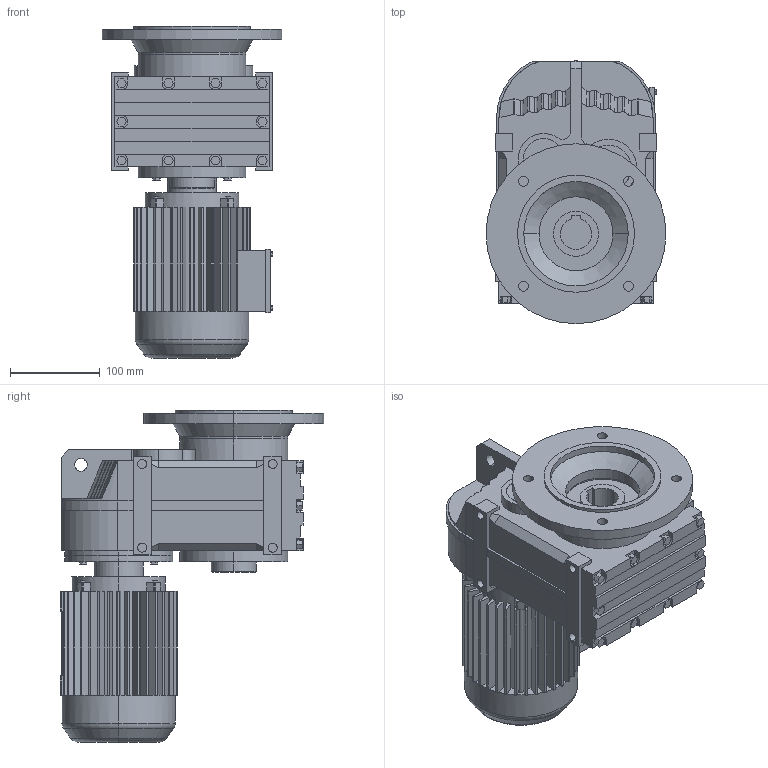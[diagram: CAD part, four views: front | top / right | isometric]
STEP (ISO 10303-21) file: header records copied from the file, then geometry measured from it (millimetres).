
FILE_DESCRIPTION(('Open CASCADE Model'),'2;1');
FILE_NAME('Open CASCADE Shape Model','2018-09-12T10:20:09',('Author'),( 'Open CASCADE'),'Open CASCADE STEP processor 6.3','Open CASCADE 6.3' ,'Unknown');
FILE_SCHEMA(('AUTOMOTIVE_DESIGN_CC2 { 1 2 10303 214 -1 1 5 4 }'));
Length unit declared in the file: millimetre
Products named in the file (5): 19_FAF47-Y63S; FA27‵157_47.step; 萇儂_120_Y63S.step; す瑩諾陑粣F_47.step; 楊擘F_47.step
Assembly tree (4 placements, depth 2):
  19_FAF47-Y63S
    FA27‵157_47.step
    萇儂_120_Y63S.step
    す瑩諾陑粣F_47.step
    楊擘F_47.step
Bounding box: 200 x 293.1 x 369 mm (x, y, z)
Volume: 7231123.8 mm3; surface area: 566560.4 mm2
Topology: 4 solids, 4 shells, 808 faces, 2123 edges, 1380 vertices
Faces by surface type: plane 570, cylinder 212, bspline 16, cone 6, torus 4
Entity records: 53712 total; most frequent: CARTESIAN_POINT 12940, DIRECTION 7129, ORIENTED_EDGE 4246, PCURVE 4246, DEFINITIONAL_REPRESENTATION 4246, LINE 3963, VECTOR 3963, EDGE_CURVE 2123
